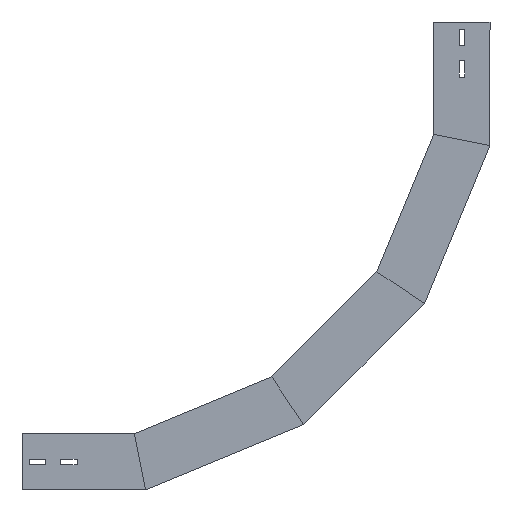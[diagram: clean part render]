
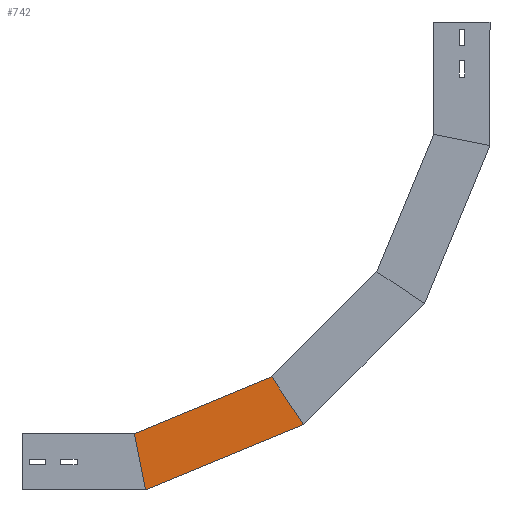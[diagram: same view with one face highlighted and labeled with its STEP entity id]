
A CAD part, left-side view. The second image highlights one B-rep face of the part: STEP entity #742.
In plain terms, the highlighted planar face has unit normal (-1, 0, 0) as drawn and (1, 0, 0) by its records, which use the part's own axes.
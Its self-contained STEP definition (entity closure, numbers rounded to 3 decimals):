
#19 = EDGE_CURVE ( 'NONE', #1052, #608, #393, .T. ) ;
#82 = DIRECTION ( 'NONE',  ( -1., 0., 0. ) ) ;
#127 = VERTEX_POINT ( 'NONE', #367 ) ;
#158 = AXIS2_PLACEMENT_3D ( 'NONE', #1667, #82, #1232 ) ;
#198 = CARTESIAN_POINT ( 'NONE',  ( 0., 0., -164.6 ) ) ;
#226 = EDGE_CURVE ( 'NONE', #608, #127, #461, .T. ) ;
#253 = DIRECTION ( 'NONE',  ( 0., -0.981, -0.195 ) ) ;
#367 = CARTESIAN_POINT ( 'NONE',  ( 0., 87.328, -375.429 ) ) ;
#392 = CARTESIAN_POINT ( 'NONE',  ( 0., 75., -149.682 ) ) ;
#393 = LINE ( 'NONE', #1565, #655 ) ;
#461 = LINE ( 'NONE', #1634, #955 ) ;
#519 = ORIENTED_EDGE ( 'NONE', *, *, #226, .T. ) ;
#530 = VECTOR ( 'NONE', #1642, 1000. ) ;
#608 = VERTEX_POINT ( 'NONE', #198 ) ;
#635 = DIRECTION ( 'NONE',  ( 0., 0.383, -0.924 ) ) ;
#648 = CARTESIAN_POINT ( 'NONE',  ( 0., 69.291, -135.899 ) ) ;
#655 = VECTOR ( 'NONE', #253, 1000. ) ;
#715 = EDGE_LOOP ( 'NONE', ( #1333, #1131, #519, #1435 ) ) ;
#742 = ADVANCED_FACE ( 'NONE', ( #1817 ), #1406, .F. ) ;
#947 = CARTESIAN_POINT ( 'NONE',  ( 0., 150.91, -332.945 ) ) ;
#955 = VECTOR ( 'NONE', #635, 1000. ) ;
#1029 = LINE ( 'NONE', #1771, #530 ) ;
#1052 = VERTEX_POINT ( 'NONE', #392 ) ;
#1131 = ORIENTED_EDGE ( 'NONE', *, *, #19, .T. ) ;
#1222 = EDGE_CURVE ( 'NONE', #1777, #127, #1029, .T. ) ;
#1232 = DIRECTION ( 'NONE',  ( 0., 0., 1. ) ) ;
#1333 = ORIENTED_EDGE ( 'NONE', *, *, #1784, .F. ) ;
#1406 = PLANE ( 'NONE',  #158 ) ;
#1435 = ORIENTED_EDGE ( 'NONE', *, *, #1222, .F. ) ;
#1496 = LINE ( 'NONE', #648, #1806 ) ;
#1565 = CARTESIAN_POINT ( 'NONE',  ( 0., 31.495, -158.335 ) ) ;
#1634 = CARTESIAN_POINT ( 'NONE',  ( 0., 0., -164.6 ) ) ;
#1642 = DIRECTION ( 'NONE',  ( 0., -0.831, -0.556 ) ) ;
#1649 = DIRECTION ( 'NONE',  ( 0., 0.383, -0.924 ) ) ;
#1667 = CARTESIAN_POINT ( 'NONE',  ( 0., 0., -164.6 ) ) ;
#1771 = CARTESIAN_POINT ( 'NONE',  ( 0., 124.345, -350.696 ) ) ;
#1777 = VERTEX_POINT ( 'NONE', #947 ) ;
#1784 = EDGE_CURVE ( 'NONE', #1052, #1777, #1496, .T. ) ;
#1806 = VECTOR ( 'NONE', #1649, 1000. ) ;
#1817 = FACE_OUTER_BOUND ( 'NONE', #715, .T. ) ;
